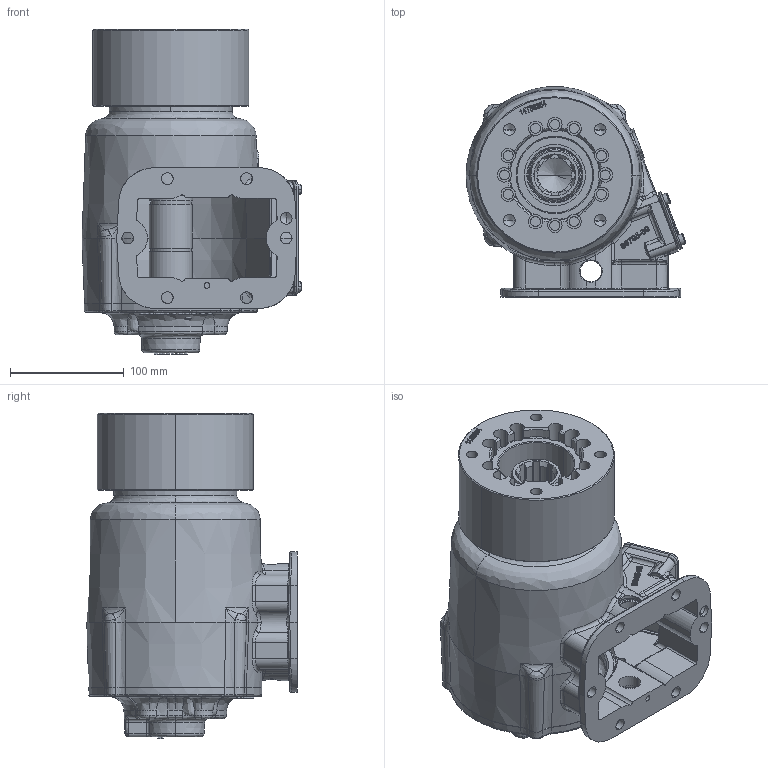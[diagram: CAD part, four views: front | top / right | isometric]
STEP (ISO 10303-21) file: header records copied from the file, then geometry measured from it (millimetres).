
FILE_DESCRIPTION (( 'STEP AP203' ), '1' );
FILE_NAME ('CS6B-A6XXX-H3IX.STEP', '2023-05-17T19:32:23', ( '' ), ( '' ), 'SwSTEP 2.0', 'SolidWorks 2021', '' );
FILE_SCHEMA (( 'CONFIG_CONTROL_DESIGN' ));
Length unit declared in the file: inch
Products named in the file (16): 19T36174; 24T36894; 01T37072-01; 19T41118; 16T41119; 19T33233; 12T34003; 14T38354; 15T36717; 11T37795; 11T36124-1; CS6B-A6XXX-H3IX; 25T21684; 26t36175; 14TA4824_Config1; 06T38996
Assembly tree (28 placements, depth 3):
  CS6B-A6XXX-H3IX
    01T37072-01
    16T41119
    15T36717
    12T34003
    25T21684  x4
    19T41118  x4
    19T36174  x4
    11T36124-1
    24T36894
    26t36175  x2
    19T33233  x4
    06T38996
    14TA4824_Config1
      14T38354
      11T37795
Bounding box: 193.76 x 185.25 x 286.52 mm (x, y, z)
Volume: 1997879.7 mm3; surface area: 485736.7 mm2
Topology: 23 solids, 32 shells, 2888 faces, 7385 edges, 4625 vertices
Faces by surface type: bspline 987, plane 708, cylinder 692, cone 402, torus 86, sphere 13
Entity records: 147016 total; most frequent: CARTESIAN_POINT 88577, ORIENTED_EDGE 13388, DIRECTION 8945, EDGE_CURVE 6695, VERTEX_POINT 4256, AXIS2_PLACEMENT_3D 3264, EDGE_LOOP 2846, ADVANCED_FACE 2604
